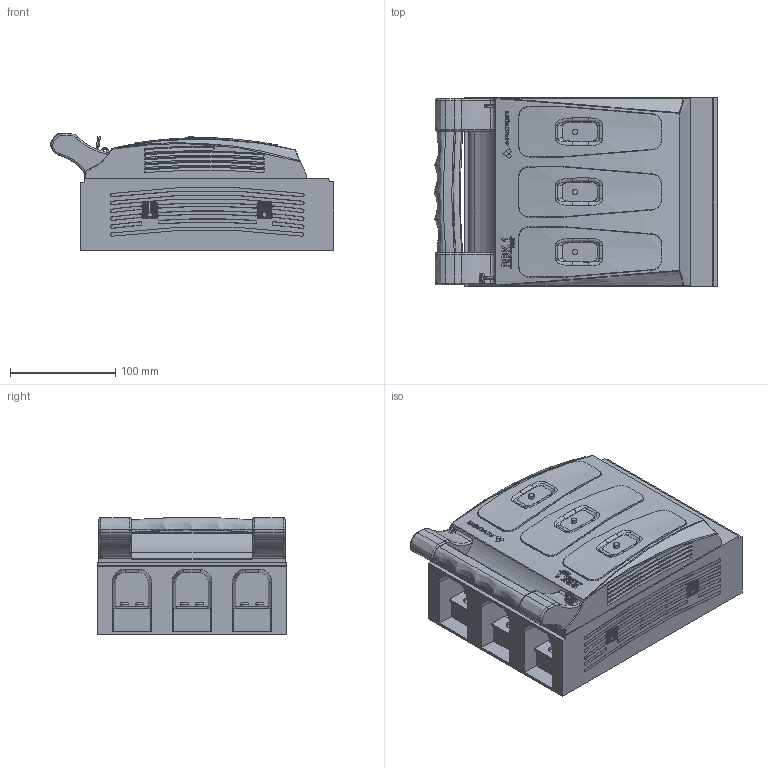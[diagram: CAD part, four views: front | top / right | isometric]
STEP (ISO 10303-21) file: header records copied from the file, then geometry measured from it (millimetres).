
FILE_DESCRIPTION(/* description */ (''),/* implementation_level */ '2;1');
FILE_NAME(/* name */ 'RBK 1 pro-M - 63-811779-021.stp',/* time_stamp */ '2019-02-25T14:10:12+01:00',/* author */ (''),/* organization */ (''),/* preprocessor_version */ 'ST-DEVELOPER v16',/* originating_system */ 'SIEMENS PLM Software NX 10.0',/* authorisation */ '');
FILE_SCHEMA (('AUTOMOTIVE_DESIGN { 1 0 10303 214 3 1 1 1 }'));
Products named in the file (1): 710_1E54D809gzho
Bounding box: 268.9 x 180 x 111 mm (x, y, z)
Surface area: 240441.5 mm2
Topology: 18 solids, 19 shells, 2345 faces, 6160 edges, 3909 vertices
Faces by surface type: plane 1397, bspline 305, cylinder 277, cone 172, torus 88, extrusion 52, sphere 36, revolution 18
Full cylindrical faces by diameter (mm): 4.5 x6, 11 x6
Entity records: 87644 total; most frequent: CARTESIAN_POINT 31184, ORIENTED_EDGE 12128, DIRECTION 11474, EDGE_CURVE 6064, AXIS2_PLACEMENT_3D 4424, VERTEX_POINT 3893, VECTOR 2604, LINE 2552
